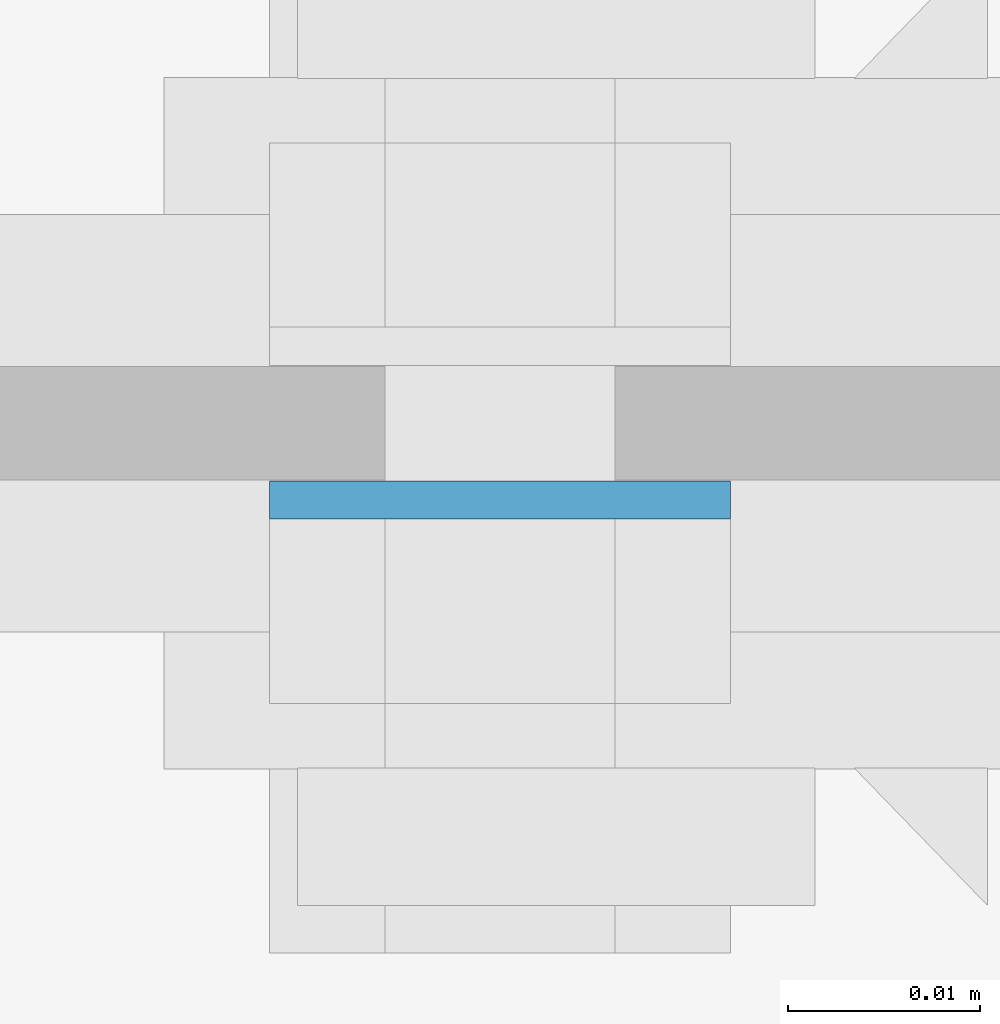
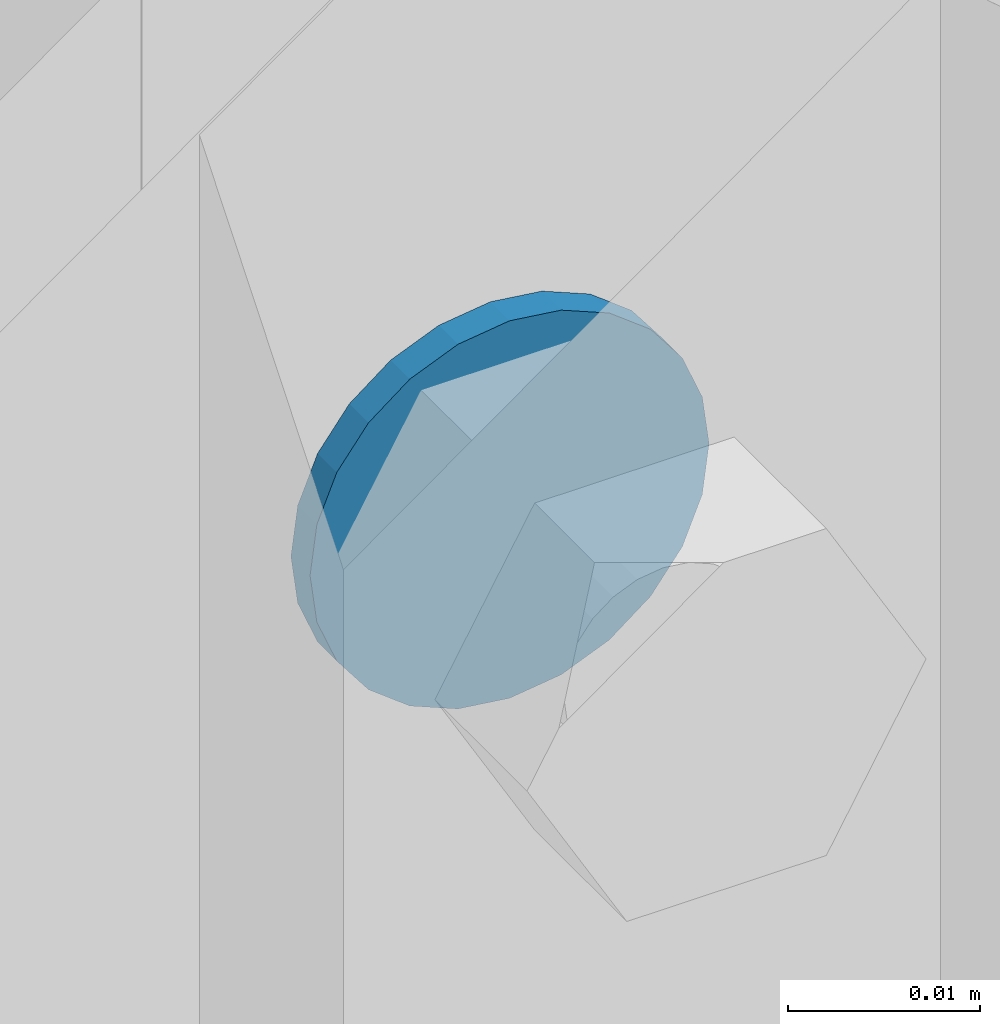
# One storey, part 72 of 251: 1 mechanical fastener.
"""IFC4 building model written with IfcOpenShell, lengths in metres."""

from ifc_helpers import new_model, si_unit, frame, origin_with_axes, place, context, project, spatial, polyline, outline, extrude, type_object, element, save


model = new_model("IFC4")

# Units and contexts
model_context = context("Model", 3, precision=1e-05, world=origin_with_axes())
ifc_project = project(units=[si_unit("LENGTHUNIT", "METRE"), si_unit("AREAUNIT", "SQUARE_METRE"), si_unit("VOLUMEUNIT", "CUBIC_METRE"), si_unit("MASSUNIT", "GRAM", prefix="KILO"), si_unit("TIMEUNIT", "SECOND"), si_unit("PLANEANGLEUNIT", "RADIAN"), si_unit("SOLIDANGLEUNIT", "STERADIAN"), si_unit("THERMODYNAMICTEMPERATUREUNIT", "DEGREE_CELSIUS")], contexts=[model_context])

# Site, building, storey
placement_1 = place(None, origin_with_axes())
site = spatial("IfcSite", under=ifc_project, at=placement_1, Name="Italia", CompositionType="ELEMENT")
building = spatial("IfcBuilding", under=site, at=placement_1, Name="Deposito", CompositionType="ELEMENT")
storey = spatial("IfcBuildingStorey", under=building, at=placement_1, Name="Storey 0", CompositionType="ELEMENT", Elevation=0.0)

# Mechanical fastener
mechanical_fastener_type = type_object("IfcMechanicalFastenerType", Name="Collegamento -070_-071", PredefinedType="BOLT")
placement_2 = place(placement_1, origin_with_axes())
mechanical_fastener_placement = place(placement_2, origin_with_axes())
element("IfcMechanicalFastener", 1, at=mechanical_fastener_placement, inside=storey, type_object=mechanical_fastener_type, Name="Collegamento -070_-071", NominalDiameter=0.024, context=model_context, shape_type="SweptSolid", body=[
    extrude(outline(polyline([(0.0, 0.0), (-0.000409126, -0.00310564), (-0.00160789, -0.00600004), (-0.00351477, -0.00848532), (-0.00600004, -0.0103922), (-0.00889444, -0.011591), (-0.0120001, -0.0120001), (-0.0151057, -0.011591), (-0.0180001, -0.0103922), (-0.0204854, -0.00848532), (-0.0223923, -0.00600004), (-0.023591, -0.00310564), (-0.0240002, 0.0), (-0.023591, 0.00310564), (-0.0223923, 0.00600004), (-0.0204854, 0.00848532), (-0.0180001, 0.0103922), (-0.0151057, 0.011591), (-0.0120001, 0.0120001), (-0.00889444, 0.011591), (-0.00600004, 0.0103922), (-0.00351477, 0.00848532), (-0.00160789, 0.00600004), (-0.000409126, 0.00310564), (0.0, 0.0)])), frame((6.01, 4.995, 6.85518), z_axis=(0.0, 1.0, 0.0), x_axis=(-1.0, 0.0, 0.0)), (0.0, 0.0, 1.0), 0.00199986),
])

save(model, "model.ifc")
